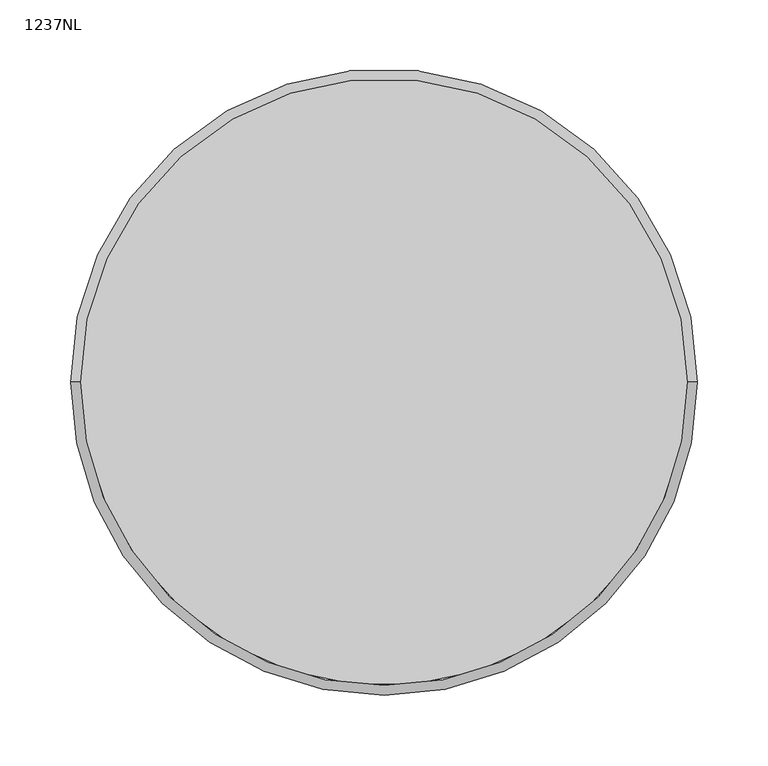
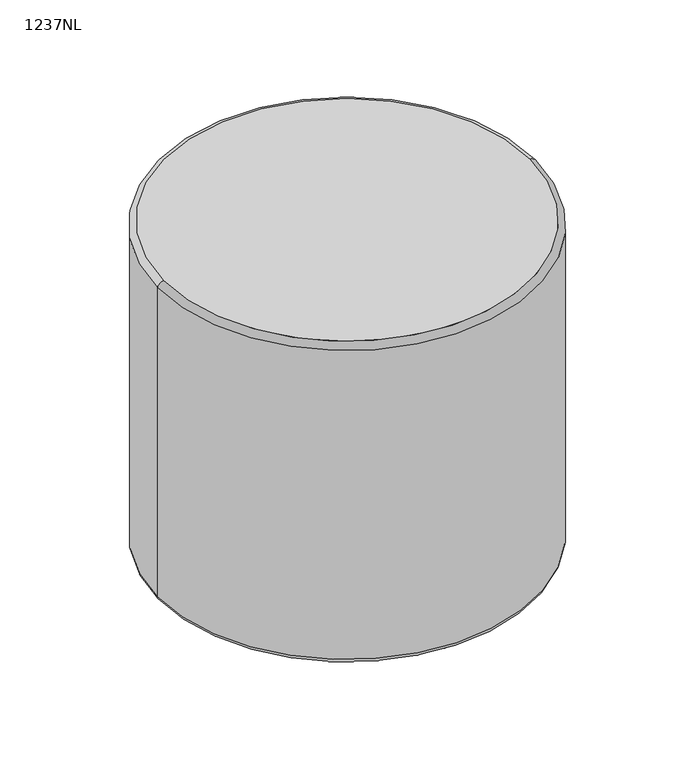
"""IFC4 building model written with IfcOpenShell, lengths in millimetres: furniture geometry, Laguna-Round_Ottomans-No_Legs-ERG : 1237NL."""

from ifc_helpers import new_model, si_unit, point, frame, origin, place, context, project, spatial, circle_curve, ellipse_curve, trimmed, source, transform, mapped, element, save
from ifc_brep_helpers import plane_surface, cylinder_surface, revolved_surface, advanced_brep


def furniture_1237nl_29a3fee9(model_context):
    return source(origin(), model_context, "Body", "AdvancedBrep", [
        advanced_brep(
        [(-4472.2421763, 1234.1558502, 10.16), (-4476.4852245, 1234.1558502, 10.16), (-4467.9991282, 1234.1558502, 10.16), (-4458.1638229, 1234.1558502, 0.0), (-4486.3205297, 1234.1558502, 0.0), (-4472.2421763, 1234.1558502, 0.0), (-4458.1638229, 1234.1558502, 3.9615026), (-4486.3205297, 1234.1558502, 3.9615026), (-4467.9991282, 1234.1558502, 3.9615026), (-4476.4852245, 1234.1558502, 3.9615026)],
        [
            (0, 1),
            (1, 2, circle_curve(frame((-4472.2421763, 1234.1558502, 10.16), z_axis=(0.0, 0.0, 1.0), x_axis=(-1.0, 0.0, 0.0)), 4.2430482)),
            (2, 0),
            (2, 1, circle_curve(frame((-4472.2421763, 1234.1558502, 10.16), z_axis=(0.0, 0.0, 1.0), x_axis=(-1.0, 0.0, 0.0)), 4.2430482)),
            (3, 4, circle_curve(frame((-4472.2421763, 1234.1558502, 0.0), z_axis=(0.0, 0.0, -1.0), x_axis=(-1.0, 0.0, 0.0)), 14.0783534)),
            (4, 5),
            (5, 3),
            (4, 3, circle_curve(frame((-4472.2421763, 1234.1558502, 0.0), z_axis=(0.0, 0.0, -1.0), x_axis=(-1.0, 0.0, 0.0)), 14.0783534)),
            (6, 7, circle_curve(frame((-4472.2421763, 1234.1558502, 3.9615026), z_axis=(0.0, 0.0, -1.0), x_axis=(-1.0, 0.0, 0.0)), 14.0783534)),
            (7, 4),
            (3, 6),
            (7, 6, circle_curve(frame((-4472.2421763, 1234.1558502, 3.9615026), z_axis=(0.0, 0.0, -1.0), x_axis=(-1.0, 0.0, 0.0)), 14.0783534)),
            (8, 9, circle_curve(frame((-4472.2421763, 1234.1558502, 3.9615026), z_axis=(0.0, 0.0, -1.0), x_axis=(-1.0, 0.0, 0.0)), 4.2430482)),
            (9, 7),
            (6, 8),
            (9, 8, circle_curve(frame((-4472.2421763, 1234.1558502, 3.9615026), z_axis=(0.0, 0.0, -1.0), x_axis=(-1.0, 0.0, 0.0)), 4.2430482)),
            (1, 9),
            (8, 2),
        ],
        [
            plane_surface(frame((-4472.2421763, 1234.1558502, 10.16), z_axis=(0.0, 0.0, 1.0), x_axis=(-1.0, 0.0, 0.0))),
            plane_surface(frame((-4472.2421763, 1234.1558502, 0.0), z_axis=(0.0, 0.0, -1.0), x_axis=(-1.0, 0.0, 0.0))),
            cylinder_surface(frame((-4472.2421763, 1234.1558502, 80.01), z_axis=(0.0, 0.0, 1.0), x_axis=(-1.0, 0.0, 0.0)), 14.0783534),
            plane_surface(frame((-4472.2421763, 1234.1558502, 3.9615026), z_axis=(0.0, 0.0, 1.0), x_axis=(-1.0, 0.0, 0.0))),
            cylinder_surface(frame((-4472.2421763, 1234.1558502, 80.01), z_axis=(0.0, 0.0, 1.0), x_axis=(-1.0, 0.0, 0.0)), 4.2430482),
        ],
        [
            (0, [[1, 2, 3]]),
            (0, [[-3, 4, -1]]),
            (1, [[5, 6, 7]]),
            (1, [[8, -7, -6]]),
            (2, [[9, 10, -5, 11]]),
            (2, [[12, -11, -8, -10]]),
            (3, [[13, 14, -9, 15]]),
            (3, [[16, -15, -12, -14]]),
            (4, [[-2, 17, -13, 18]]),
            (4, [[-4, -18, -16, -17]]),
        ],
    ),
        advanced_brep(
        [(-4857.4852245, 1234.1558502, 3.9615026), (-4848.9991282, 1234.1558502, 3.9615026), (-4848.9991282, 1234.1558502, 10.16), (-4857.4852245, 1234.1558502, 10.16), (-4867.3205297, 1234.1558502, 3.9615026), (-4839.1638229, 1234.1558502, 3.9615026), (-4867.3205297, 1234.1558502, 0.0), (-4839.1638229, 1234.1558502, 0.0), (-4853.2421763, 1234.1558502, 0.0), (-4853.2421763, 1234.1558502, 10.16)],
        [
            (0, 1, circle_curve(frame((-4853.2421763, 1234.1558502, 3.9615026), z_axis=(0.0, 0.0, 1.0), x_axis=(1.0, 0.0, 0.0)), 4.2430482)),
            (1, 2),
            (2, 3, circle_curve(frame((-4853.2421763, 1234.1558502, 10.16), z_axis=(0.0, 0.0, -1.0), x_axis=(1.0, 0.0, 0.0)), 4.2430482)),
            (3, 0),
            (1, 0, circle_curve(frame((-4853.2421763, 1234.1558502, 3.9615026), z_axis=(0.0, 0.0, 1.0), x_axis=(1.0, 0.0, 0.0)), 4.2430482)),
            (3, 2, circle_curve(frame((-4853.2421763, 1234.1558502, 10.16), z_axis=(0.0, 0.0, -1.0), x_axis=(1.0, 0.0, 0.0)), 4.2430482)),
            (4, 5, circle_curve(frame((-4853.2421763, 1234.1558502, 3.9615026), z_axis=(0.0, 0.0, 1.0), x_axis=(1.0, 0.0, 0.0)), 14.0783534)),
            (5, 1),
            (0, 4),
            (5, 4, circle_curve(frame((-4853.2421763, 1234.1558502, 3.9615026), z_axis=(0.0, 0.0, 1.0), x_axis=(1.0, 0.0, 0.0)), 14.0783534)),
            (6, 7, circle_curve(frame((-4853.2421763, 1234.1558502, 0.0), z_axis=(0.0, 0.0, 1.0), x_axis=(1.0, 0.0, 0.0)), 14.0783534)),
            (7, 5),
            (4, 6),
            (7, 6, circle_curve(frame((-4853.2421763, 1234.1558502, 0.0), z_axis=(0.0, 0.0, 1.0), x_axis=(1.0, 0.0, 0.0)), 14.0783534)),
            (8, 7),
            (6, 8),
            (2, 9),
            (9, 3),
        ],
        [
            cylinder_surface(frame((-4853.2421763, 1234.1558502, 29.21), z_axis=(0.0, 0.0, -1.0), x_axis=(1.0, 0.0, 0.0)), 4.2430482),
            plane_surface(frame((-4853.2421763, 1234.1558502, 3.9615026), z_axis=(0.0, 0.0, 1.0), x_axis=(1.0, 0.0, 0.0))),
            cylinder_surface(frame((-4853.2421763, 1234.1558502, 29.21), z_axis=(0.0, 0.0, -1.0), x_axis=(1.0, 0.0, 0.0)), 14.0783534),
            plane_surface(frame((-4853.2421763, 1234.1558502, 0.0), z_axis=(0.0, 0.0, -1.0), x_axis=(1.0, 0.0, 0.0))),
            plane_surface(frame((-4853.2421763, 1234.1558502, 10.16), z_axis=(0.0, 0.0, 1.0), x_axis=(1.0, 0.0, 0.0))),
        ],
        [
            (0, [[1, 2, 3, 4]]),
            (0, [[5, -4, 6, -2]]),
            (1, [[7, 8, -1, 9]]),
            (1, [[10, -9, -5, -8]]),
            (2, [[11, 12, -7, 13]]),
            (2, [[14, -13, -10, -12]]),
            (3, [[15, -11, 16]]),
            (3, [[-16, -14, -15]]),
            (4, [[-3, 17, 18]]),
            (4, [[-6, -18, -17]]),
        ],
    ),
        advanced_brep(
        [(-4662.7421763, 1047.8988983, 3.9615026), (-4662.7421763, 1039.412802, 3.9615026), (-4662.7421763, 1039.412802, 10.16), (-4662.7421763, 1047.8988983, 10.16), (-4662.7421763, 1057.7342036, 3.9615026), (-4662.7421763, 1029.5774967, 3.9615026), (-4662.7421763, 1057.7342036, 0.0), (-4662.7421763, 1029.5774967, 0.0), (-4662.7421763, 1043.6558502, 0.0), (-4662.7421763, 1043.6558502, 10.16)],
        [
            (0, 1, circle_curve(frame((-4662.7421763, 1043.6558502, 3.9615026), z_axis=(0.0, 0.0, 1.0), x_axis=(0.0, -1.0, 0.0)), 4.2430482)),
            (1, 2),
            (2, 3, circle_curve(frame((-4662.7421763, 1043.6558502, 10.16), z_axis=(0.0, 0.0, -1.0), x_axis=(0.0, -1.0, 0.0)), 4.2430482)),
            (3, 0),
            (1, 0, circle_curve(frame((-4662.7421763, 1043.6558502, 3.9615026), z_axis=(0.0, 0.0, 1.0), x_axis=(0.0, -1.0, 0.0)), 4.2430482)),
            (3, 2, circle_curve(frame((-4662.7421763, 1043.6558502, 10.16), z_axis=(0.0, 0.0, -1.0), x_axis=(0.0, -1.0, 0.0)), 4.2430482)),
            (4, 5, circle_curve(frame((-4662.7421763, 1043.6558502, 3.9615026), z_axis=(0.0, 0.0, 1.0), x_axis=(0.0, -1.0, 0.0)), 14.0783534)),
            (5, 1),
            (0, 4),
            (5, 4, circle_curve(frame((-4662.7421763, 1043.6558502, 3.9615026), z_axis=(0.0, 0.0, 1.0), x_axis=(0.0, -1.0, 0.0)), 14.0783534)),
            (6, 7, circle_curve(frame((-4662.7421763, 1043.6558502, 0.0), z_axis=(0.0, 0.0, 1.0), x_axis=(0.0, -1.0, 0.0)), 14.0783534)),
            (7, 5),
            (4, 6),
            (7, 6, circle_curve(frame((-4662.7421763, 1043.6558502, 0.0), z_axis=(0.0, 0.0, 1.0), x_axis=(0.0, -1.0, 0.0)), 14.0783534)),
            (8, 7),
            (6, 8),
            (2, 9),
            (9, 3),
        ],
        [
            cylinder_surface(frame((-4662.7421763, 1043.6558502, 39.775957), z_axis=(0.0, 0.0, -1.0), x_axis=(0.0, -1.0, 0.0)), 4.2430482),
            plane_surface(frame((-4662.7421763, 1043.6558502, 3.9615026), z_axis=(0.0, 0.0, 1.0), x_axis=(0.0, -1.0, 0.0))),
            cylinder_surface(frame((-4662.7421763, 1043.6558502, 39.775957), z_axis=(0.0, 0.0, -1.0), x_axis=(0.0, -1.0, 0.0)), 14.0783534),
            plane_surface(frame((-4662.7421763, 1043.6558502, 0.0), z_axis=(0.0, 0.0, -1.0), x_axis=(0.0, -1.0, 0.0))),
            plane_surface(frame((-4662.7421763, 1043.6558502, 10.16), z_axis=(0.0, 0.0, 1.0), x_axis=(0.0, -1.0, 0.0))),
        ],
        [
            (0, [[1, 2, 3, 4]]),
            (0, [[5, -4, 6, -2]]),
            (1, [[7, 8, -1, 9]]),
            (1, [[10, -9, -5, -8]]),
            (2, [[11, 12, -7, 13]]),
            (2, [[14, -13, -10, -12]]),
            (3, [[15, -11, 16]]),
            (3, [[-16, -14, -15]]),
            (4, [[-3, 17, 18]]),
            (4, [[-6, -18, -17]]),
        ],
    ),
        advanced_brep(
        [(-4662.7421763, 1428.8988983, 3.9615026), (-4662.7421763, 1420.412802, 3.9615026), (-4662.7421763, 1420.412802, 10.16), (-4662.7421763, 1428.8988983, 10.16), (-4662.7421763, 1438.7342036, 3.9615026), (-4662.7421763, 1410.5774967, 3.9615026), (-4662.7421763, 1438.7342036, 0.0), (-4662.7421763, 1410.5774967, 0.0), (-4662.7421763, 1424.6558502, 0.0), (-4662.7421763, 1424.6558502, 10.16)],
        [
            (0, 1, circle_curve(frame((-4662.7421763, 1424.6558502, 3.9615026), z_axis=(0.0, 0.0, 1.0), x_axis=(0.0, -1.0, 0.0)), 4.2430482)),
            (1, 2),
            (2, 3, circle_curve(frame((-4662.7421763, 1424.6558502, 10.16), z_axis=(0.0, 0.0, -1.0), x_axis=(0.0, -1.0, 0.0)), 4.2430482)),
            (3, 0),
            (1, 0, circle_curve(frame((-4662.7421763, 1424.6558502, 3.9615026), z_axis=(0.0, 0.0, 1.0), x_axis=(0.0, -1.0, 0.0)), 4.2430482)),
            (3, 2, circle_curve(frame((-4662.7421763, 1424.6558502, 10.16), z_axis=(0.0, 0.0, -1.0), x_axis=(0.0, -1.0, 0.0)), 4.2430482)),
            (4, 5, circle_curve(frame((-4662.7421763, 1424.6558502, 3.9615026), z_axis=(0.0, 0.0, 1.0), x_axis=(0.0, -1.0, 0.0)), 14.0783534)),
            (5, 1),
            (0, 4),
            (5, 4, circle_curve(frame((-4662.7421763, 1424.6558502, 3.9615026), z_axis=(0.0, 0.0, 1.0), x_axis=(0.0, -1.0, 0.0)), 14.0783534)),
            (6, 7, circle_curve(frame((-4662.7421763, 1424.6558502, 0.0), z_axis=(0.0, 0.0, 1.0), x_axis=(0.0, -1.0, 0.0)), 14.0783534)),
            (7, 5),
            (4, 6),
            (7, 6, circle_curve(frame((-4662.7421763, 1424.6558502, 0.0), z_axis=(0.0, 0.0, 1.0), x_axis=(0.0, -1.0, 0.0)), 14.0783534)),
            (8, 7),
            (6, 8),
            (2, 9),
            (9, 3),
        ],
        [
            cylinder_surface(frame((-4662.7421763, 1424.6558502, 48.26), z_axis=(0.0, 0.0, -1.0), x_axis=(0.0, -1.0, 0.0)), 4.2430482),
            plane_surface(frame((-4662.7421763, 1424.6558502, 3.9615026), z_axis=(0.0, 0.0, 1.0), x_axis=(0.0, -1.0, 0.0))),
            cylinder_surface(frame((-4662.7421763, 1424.6558502, 48.26), z_axis=(0.0, 0.0, -1.0), x_axis=(0.0, -1.0, 0.0)), 14.0783534),
            plane_surface(frame((-4662.7421763, 1424.6558502, 0.0), z_axis=(0.0, 0.0, -1.0), x_axis=(0.0, -1.0, 0.0))),
            plane_surface(frame((-4662.7421763, 1424.6558502, 10.16), z_axis=(0.0, 0.0, 1.0), x_axis=(0.0, -1.0, 0.0))),
        ],
        [
            (0, [[1, 2, 3, 4]]),
            (0, [[5, -4, 6, -2]]),
            (1, [[7, 8, -1, 9]]),
            (1, [[10, -9, -5, -8]]),
            (2, [[11, 12, -7, 13]]),
            (2, [[14, -13, -10, -12]]),
            (3, [[15, -11, 16]]),
            (3, [[-16, -14, -15]]),
            (4, [[-3, 17, 18]]),
            (4, [[-6, -18, -17]]),
        ],
    ),
        advanced_brep(
        [(-4440.481116, 1234.1558502, 399.8831003), (-4885.0032366, 1234.1558502, 399.8831003), (-4885.0032366, 1234.1558502, 16.6768997), (-4440.481116, 1234.1558502, 16.6768997), (-4447.4439761, 1234.1558502, 406.4), (-4878.0403765, 1234.1558502, 406.4), (-4878.0403765, 1234.1558502, 10.16), (-4447.4439761, 1234.1558502, 10.16)],
        [
            (0, 1, circle_curve(frame((-4662.7421763, 1234.1558502, 399.8831003), z_axis=(0.0, 0.0, -1.0), x_axis=(-1.0, 0.0, 0.0)), 222.2610603)),
            (1, 2, circle_curve(frame((-1992.4401763, 1234.1558502, 208.28), z_axis=(0.0, -1.0, 0.0), x_axis=(1.0, 0.0, 0.0)), 2898.902)),
            (2, 3, circle_curve(frame((-4662.7421763, 1234.1558502, 16.6768997), z_axis=(0.0, 0.0, 1.0), x_axis=(-1.0, 0.0, 0.0)), 222.2610603)),
            (3, 0, circle_curve(frame((-7333.0441763, 1234.1558502, 208.28), z_axis=(0.0, -1.0, 0.0), x_axis=(-1.0, 0.0, 0.0)), 2898.902)),
            (0, 4, circle_curve(frame((-4447.4439761, 1234.1558502, 399.4218811), z_axis=(0.0, -1.0, 0.0), x_axis=(-1.0, 0.0, 0.0)), 6.9781189)),
            (4, 5, circle_curve(frame((-4662.7421763, 1234.1558502, 406.4), z_axis=(0.0, 0.0, -1.0), x_axis=(-1.0, 0.0, 0.0)), 215.2982002)),
            (5, 1, circle_curve(frame((-4878.0403765, 1234.1558502, 399.4218811), z_axis=(0.0, -1.0, 0.0), x_axis=(1.0, 0.0, 0.0)), 6.9781189)),
            (2, 6, circle_curve(frame((-4878.0403765, 1234.1558502, 17.1381189), z_axis=(0.0, -1.0, 0.0), x_axis=(1.0, 0.0, 0.0)), 6.9781189)),
            (6, 7, circle_curve(frame((-4662.7421763, 1234.1558502, 10.16), z_axis=(0.0, 0.0, 1.0), x_axis=(-1.0, 0.0, 0.0)), 215.2982002)),
            (7, 3, circle_curve(frame((-4447.4439761, 1234.1558502, 17.1381189), z_axis=(0.0, -1.0, 0.0), x_axis=(-1.0, 0.0, 0.0)), 6.9781189)),
            (1, 0, circle_curve(frame((-4662.7421763, 1234.1558502, 399.8831003), z_axis=(0.0, 0.0, -1.0), x_axis=(1.0, 0.0, 0.0)), 222.2610603)),
            (3, 2, circle_curve(frame((-4662.7421763, 1234.1558502, 16.6768997), z_axis=(0.0, 0.0, 1.0), x_axis=(1.0, 0.0, 0.0)), 222.2610603)),
            (5, 4, circle_curve(frame((-4662.7421763, 1234.1558502, 406.4), z_axis=(0.0, 0.0, -1.0), x_axis=(1.0, 0.0, 0.0)), 215.2982002)),
            (7, 6, circle_curve(frame((-4662.7421763, 1234.1558502, 10.16), z_axis=(0.0, 0.0, 1.0), x_axis=(1.0, 0.0, 0.0)), 215.2982002)),
        ],
        [
            revolved_surface(trimmed(ellipse_curve(frame((-1992.4401763, 1234.1558502, 208.28), z_axis=(0.0, 1.0, 0.0), x_axis=(1.0, 0.0, 0.0)), 2898.902, 2898.902), [point((-4885.0032366, 1234.1558502, 16.6768997))], [point((-4885.0032366, 1234.1558502, 399.8831003))], True, "CARTESIAN"), (-4662.7421763, 1234.1558502, 0.0), (0.0, 0.0, 1.0)),
            revolved_surface(trimmed(ellipse_curve(frame((-4878.0403765, 1234.1558502, 399.4218811), z_axis=(0.0, 1.0, 0.0), x_axis=(1.0, 0.0, 0.0)), 6.9781189, 6.9781189), [point((-4885.0032366, 1234.1558502, 399.8831003))], [point((-4878.0403765, 1234.1558502, 406.4))], True, "CARTESIAN"), (-4662.7421763, 1234.1558502, 0.0), (0.0, 0.0, 1.0)),
            revolved_surface(trimmed(ellipse_curve(frame((-4878.0403765, 1234.1558502, 17.1381189), z_axis=(0.0, 1.0, 0.0), x_axis=(1.0, 0.0, 0.0)), 6.9781189, 6.9781189), [point((-4878.0403765, 1234.1558502, 10.16))], [point((-4885.0032366, 1234.1558502, 16.6768997))], True, "CARTESIAN"), (-4662.7421763, 1234.1558502, 0.0), (0.0, 0.0, 1.0)),
            revolved_surface(trimmed(ellipse_curve(frame((-7333.0441763, 1234.1558502, 208.28), z_axis=(0.0, -1.0, 0.0), x_axis=(-1.0, 0.0, 0.0)), 2898.902, 2898.902), [point((-4440.481116, 1234.1558502, 16.6768997))], [point((-4440.481116, 1234.1558502, 399.8831003))], True, "CARTESIAN"), (-4662.7421763, 1234.1558502, 0.0), (0.0, 0.0, 1.0)),
            revolved_surface(trimmed(ellipse_curve(frame((-4447.4439761, 1234.1558502, 399.4218811), z_axis=(0.0, -1.0, 0.0), x_axis=(-1.0, 0.0, 0.0)), 6.9781189, 6.9781189), [point((-4440.481116, 1234.1558502, 399.8831003))], [point((-4447.4439761, 1234.1558502, 406.4))], True, "CARTESIAN"), (-4662.7421763, 1234.1558502, 0.0), (0.0, 0.0, 1.0)),
            revolved_surface(trimmed(ellipse_curve(frame((-4447.4439761, 1234.1558502, 17.1381189), z_axis=(0.0, -1.0, 0.0), x_axis=(-1.0, 0.0, 0.0)), 6.9781189, 6.9781189), [point((-4447.4439761, 1234.1558502, 10.16))], [point((-4440.481116, 1234.1558502, 16.6768997))], True, "CARTESIAN"), (-4662.7421763, 1234.1558502, 0.0), (0.0, 0.0, 1.0)),
            plane_surface(frame((-4447.4439761, 1234.1558502, 406.4), z_axis=(0.0, 0.0, 1.0), x_axis=(0.0, 1.0, 0.0))),
            plane_surface(frame((-4447.4439761, 1234.1558502, 10.16), z_axis=(0.0, 0.0, -1.0), x_axis=(0.0, -1.0, 0.0))),
        ],
        [
            (0, [[1, 2, 3, 4]]),
            (1, [[-1, 5, 6, 7]]),
            (2, [[-3, 8, 9, 10]]),
            (3, [[-2, 11, -4, 12]]),
            (4, [[-7, 13, -5, -11]]),
            (5, [[-8, -12, -10, 14]]),
            (6, [[-6, -13]]),
            (7, [[-9, -14]]),
        ],
    ),
    ])


if __name__ == "__main__":
    model = new_model("IFC4")
    model_context = context("Model", 3, world=origin())
    ifc_project = project(units=[si_unit("LENGTHUNIT", "METRE", prefix="MILLI")], contexts=[model_context])
    site = spatial("IfcSite", under=ifc_project)
    building = spatial("IfcBuilding", under=site)
    placement = place(None, origin())
    furniture_1237nl_shape = furniture_1237nl_29a3fee9(model_context)
    element("IfcFurniture", 1, ObjectType="Laguna-Round_Ottomans-No_Legs-ERG : 1237NL", at=placement, inside=building, context=model_context, shape_type="MappedRepresentation", body=[
        mapped(furniture_1237nl_shape, transform((0.0, 0.0, 0.0), x_axis=(1.0, 0.0, 0.0), y_axis=(0.0, 1.0, 0.0), z_axis=(0.0, 0.0, 1.0))),
    ])
    save(model, "model.ifc")
